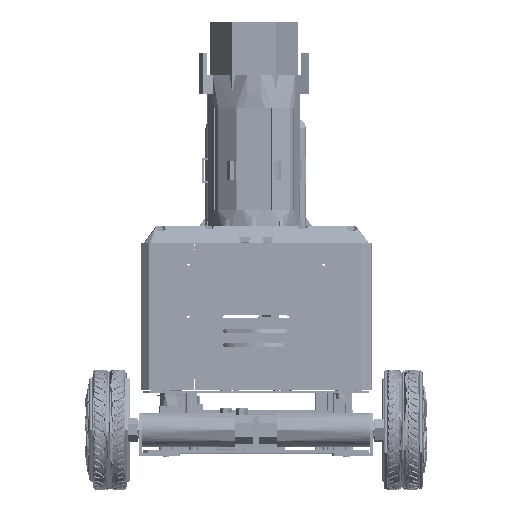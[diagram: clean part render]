
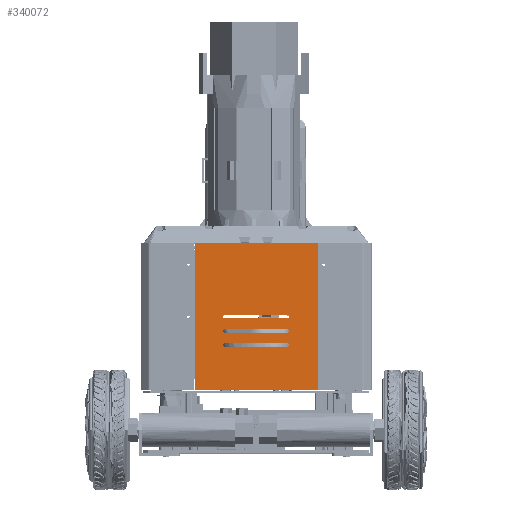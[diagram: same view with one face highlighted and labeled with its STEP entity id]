
A CAD part, top view. The second image highlights one B-rep face of the part: STEP entity #340072.
In plain terms, the highlighted planar face has unit normal (0, 0, 1).
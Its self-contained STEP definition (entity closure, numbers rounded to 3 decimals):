
#7875 = ORIENTED_EDGE ( 'NONE', *, *, #812959, .T. ) ;
#10514 = CARTESIAN_POINT ( 'NONE',  ( 33., 48., 211.667 ) ) ;
#22746 = VERTEX_POINT ( 'NONE', #448270 ) ;
#28956 = LINE ( 'NONE', #39017, #783159 ) ;
#31417 = EDGE_CURVE ( 'NONE', #280778, #508868, #28956, .T. ) ;
#33961 = DIRECTION ( 'NONE',  ( 0., 1., 0. ) ) ;
#39017 = CARTESIAN_POINT ( 'NONE',  ( -64.8, 3., 211.667 ) ) ;
#40153 = CIRCLE ( 'NONE', #56823, 2. ) ;
#49771 = CARTESIAN_POINT ( 'NONE',  ( 33., 50., 211.667 ) ) ;
#54729 = DIRECTION ( 'NONE',  ( 0., 0., -1. ) ) ;
#56823 = AXIS2_PLACEMENT_3D ( 'NONE', #49771, #54729, #670007 ) ;
#73224 = ORIENTED_EDGE ( 'NONE', *, *, #230662, .F. ) ;
#79922 = CARTESIAN_POINT ( 'NONE',  ( -33., 65., 211.667 ) ) ;
#80171 = LINE ( 'NONE', #90273, #580929 ) ;
#86415 = AXIS2_PLACEMENT_3D ( 'NONE', #878768, #268538, #568680 ) ;
#89250 = ORIENTED_EDGE ( 'NONE', *, *, #417574, .F. ) ;
#90273 = CARTESIAN_POINT ( 'NONE',  ( 39.25, 82., 211.667 ) ) ;
#92093 = CARTESIAN_POINT ( 'NONE',  ( 33., 67., 211.667 ) ) ;
#113214 = ORIENTED_EDGE ( 'NONE', *, *, #651404, .T. ) ;
#114981 = VERTEX_POINT ( 'NONE', #826923 ) ;
#133962 = CARTESIAN_POINT ( 'NONE',  ( 72.25, 48., 211.667 ) ) ;
#144870 = VERTEX_POINT ( 'NONE', #10514 ) ;
#170813 = EDGE_CURVE ( 'NONE', #114981, #917892, #945715, .T. ) ;
#173532 = LINE ( 'NONE', #579979, #612377 ) ;
#181786 = EDGE_CURVE ( 'NONE', #262906, #144870, #40153, .T. ) ;
#186423 = VERTEX_POINT ( 'NONE', #555222 ) ;
#187603 = CARTESIAN_POINT ( 'NONE',  ( -33., 48., 211.667 ) ) ;
#192354 = VERTEX_POINT ( 'NONE', #187603 ) ;
#197319 = FACE_BOUND ( 'NONE', #371131, .T. ) ;
#204108 = LINE ( 'NONE', #452884, #555718 ) ;
#212115 = DIRECTION ( 'NONE',  ( 0., 0., -1. ) ) ;
#230662 = EDGE_CURVE ( 'NONE', #262906, #363350, #764183, .T. ) ;
#233312 = CARTESIAN_POINT ( 'NONE',  ( 64.8, 3., 211.667 ) ) ;
#239794 = CARTESIAN_POINT ( 'NONE',  ( 111.5, 3., 211.667 ) ) ;
#244969 = EDGE_LOOP ( 'NONE', ( #73224, #618754, #89250, #767473 ) ) ;
#246981 = CARTESIAN_POINT ( 'NONE',  ( 33., 82., 211.667 ) ) ;
#258456 = FACE_BOUND ( 'NONE', #244969, .T. ) ;
#262906 = VERTEX_POINT ( 'NONE', #542731 ) ;
#265385 = CARTESIAN_POINT ( 'NONE',  ( 72.25, 63., 211.667 ) ) ;
#268538 = DIRECTION ( 'NONE',  ( 0., 0., 1. ) ) ;
#272849 = ORIENTED_EDGE ( 'NONE', *, *, #713678, .F. ) ;
#277394 = CARTESIAN_POINT ( 'NONE',  ( -33., 63., 211.667 ) ) ;
#277433 = ORIENTED_EDGE ( 'NONE', *, *, #960166, .T. ) ;
#280778 = VERTEX_POINT ( 'NONE', #633792 ) ;
#285348 = DIRECTION ( 'NONE',  ( -1., 0., 0. ) ) ;
#290609 = VERTEX_POINT ( 'NONE', #757092 ) ;
#296257 = AXIS2_PLACEMENT_3D ( 'NONE', #441002, #212115, #898615 ) ;
#311402 = CARTESIAN_POINT ( 'NONE',  ( -33., 52., 211.667 ) ) ;
#312353 = ORIENTED_EDGE ( 'NONE', *, *, #457006, .T. ) ;
#328424 = DIRECTION ( 'NONE',  ( 0., 0., -1. ) ) ;
#340072 = ADVANCED_FACE ( 'NONE', ( #258456, #578706, #197319, #726249 ), #736236, .T. ) ;
#363350 = VERTEX_POINT ( 'NONE', #311402 ) ;
#371131 = EDGE_LOOP ( 'NONE', ( #583085, #988441, #272849, #7875 ) ) ;
#374252 = AXIS2_PLACEMENT_3D ( 'NONE', #79922, #700220, #857687 ) ;
#377556 = CIRCLE ( 'NONE', #296257, 2. ) ;
#377841 = DIRECTION ( 'NONE',  ( -1., 0., 0. ) ) ;
#382019 = VECTOR ( 'NONE', #423025, 1000. ) ;
#387500 = DIRECTION ( 'NONE',  ( -1., 0., 0. ) ) ;
#417574 = EDGE_CURVE ( 'NONE', #192354, #144870, #454029, .T. ) ;
#423025 = DIRECTION ( 'NONE',  ( 1., 0., 0. ) ) ;
#441002 = CARTESIAN_POINT ( 'NONE',  ( -33., 80., 211.667 ) ) ;
#448270 = CARTESIAN_POINT ( 'NONE',  ( 33., 78., 211.667 ) ) ;
#452884 = CARTESIAN_POINT ( 'NONE',  ( 39.25, 67., 211.667 ) ) ;
#454029 = LINE ( 'NONE', #133962, #1004051 ) ;
#457006 = EDGE_CURVE ( 'NONE', #114981, #508868, #624405, .T. ) ;
#481841 = CARTESIAN_POINT ( 'NONE',  ( 111.5, 157., 211.667 ) ) ;
#485030 = VERTEX_POINT ( 'NONE', #277394 ) ;
#487594 = VERTEX_POINT ( 'NONE', #741196 ) ;
#500269 = VECTOR ( 'NONE', #934396, 1000. ) ;
#508868 = VERTEX_POINT ( 'NONE', #511753 ) ;
#511753 = CARTESIAN_POINT ( 'NONE',  ( -64.8, 157., 211.667 ) ) ;
#535009 = AXIS2_PLACEMENT_3D ( 'NONE', #594008, #583935, #731456 ) ;
#542045 = EDGE_CURVE ( 'NONE', #546769, #487594, #80171, .T. ) ;
#542731 = CARTESIAN_POINT ( 'NONE',  ( 33., 52., 211.667 ) ) ;
#546769 = VERTEX_POINT ( 'NONE', #246981 ) ;
#555222 = CARTESIAN_POINT ( 'NONE',  ( -33., 78., 211.667 ) ) ;
#555718 = VECTOR ( 'NONE', #285348, 1000. ) ;
#564701 = DIRECTION ( 'NONE',  ( 0., 0., -1. ) ) ;
#568680 = DIRECTION ( 'NONE',  ( 0., -1., 0. ) ) ;
#578706 = FACE_BOUND ( 'NONE', #675047, .T. ) ;
#579979 = CARTESIAN_POINT ( 'NONE',  ( 72.25, 78., 211.667 ) ) ;
#580929 = VECTOR ( 'NONE', #786741, 1000. ) ;
#583085 = ORIENTED_EDGE ( 'NONE', *, *, #542045, .F. ) ;
#583935 = DIRECTION ( 'NONE',  ( 0., 0., -1. ) ) ;
#594008 = CARTESIAN_POINT ( 'NONE',  ( -33., 50., 211.667 ) ) ;
#601259 = VECTOR ( 'NONE', #950717, 1000. ) ;
#601706 = CARTESIAN_POINT ( 'NONE',  ( 39.25, 52., 211.667 ) ) ;
#602388 = EDGE_CURVE ( 'NONE', #732400, #984287, #204108, .T. ) ;
#609109 = AXIS2_PLACEMENT_3D ( 'NONE', #641073, #564701, #747300 ) ;
#612377 = VECTOR ( 'NONE', #874975, 1000. ) ;
#618754 = ORIENTED_EDGE ( 'NONE', *, *, #181786, .T. ) ;
#624405 = LINE ( 'NONE', #481841, #500269 ) ;
#630682 = CARTESIAN_POINT ( 'NONE',  ( 64.8, 157., 211.667 ) ) ;
#633792 = CARTESIAN_POINT ( 'NONE',  ( -64.8, 3., 211.667 ) ) ;
#641073 = CARTESIAN_POINT ( 'NONE',  ( 33., 65., 211.667 ) ) ;
#651404 = EDGE_CURVE ( 'NONE', #485030, #984287, #975164, .T. ) ;
#651887 = LINE ( 'NONE', #265385, #382019 ) ;
#652084 = ORIENTED_EDGE ( 'NONE', *, *, #704611, .F. ) ;
#670007 = DIRECTION ( 'NONE',  ( 0., 1., 0. ) ) ;
#672224 = VECTOR ( 'NONE', #387500, 1000. ) ;
#675047 = EDGE_LOOP ( 'NONE', ( #815986, #277433, #927238, #113214 ) ) ;
#700220 = DIRECTION ( 'NONE',  ( 0., 0., -1. ) ) ;
#704611 = EDGE_CURVE ( 'NONE', #917892, #280778, #778854, .T. ) ;
#713678 = EDGE_CURVE ( 'NONE', #186423, #22746, #173532, .T. ) ;
#726249 = FACE_OUTER_BOUND ( 'NONE', #992570, .T. ) ;
#731456 = DIRECTION ( 'NONE',  ( 0., -1., 0. ) ) ;
#732400 = VERTEX_POINT ( 'NONE', #92093 ) ;
#736236 = PLANE ( 'NONE',  #86415 ) ;
#741196 = CARTESIAN_POINT ( 'NONE',  ( -33., 82., 211.667 ) ) ;
#747300 = DIRECTION ( 'NONE',  ( 0., 1., 0. ) ) ;
#753806 = VECTOR ( 'NONE', #377841, 1000. ) ;
#757092 = CARTESIAN_POINT ( 'NONE',  ( 33., 63., 211.667 ) ) ;
#764120 = DIRECTION ( 'NONE',  ( 1., 0., 0. ) ) ;
#764183 = LINE ( 'NONE', #601706, #753806 ) ;
#766109 = EDGE_CURVE ( 'NONE', #192354, #363350, #989294, .T. ) ;
#767473 = ORIENTED_EDGE ( 'NONE', *, *, #766109, .T. ) ;
#771643 = CIRCLE ( 'NONE', #609109, 2. ) ;
#778854 = LINE ( 'NONE', #239794, #672224 ) ;
#783159 = VECTOR ( 'NONE', #33961, 1000. ) ;
#786741 = DIRECTION ( 'NONE',  ( -1., 0., 0. ) ) ;
#801044 = CARTESIAN_POINT ( 'NONE',  ( 33., 80., 211.667 ) ) ;
#812959 = EDGE_CURVE ( 'NONE', #186423, #487594, #377556, .T. ) ;
#815986 = ORIENTED_EDGE ( 'NONE', *, *, #602388, .F. ) ;
#826923 = CARTESIAN_POINT ( 'NONE',  ( 64.8, 157., 211.667 ) ) ;
#857687 = DIRECTION ( 'NONE',  ( 0., -1., 0. ) ) ;
#872312 = DIRECTION ( 'NONE',  ( 0., 1., 0. ) ) ;
#874975 = DIRECTION ( 'NONE',  ( 1., 0., 0. ) ) ;
#878768 = CARTESIAN_POINT ( 'NONE',  ( 111.5, 3., 211.667 ) ) ;
#884901 = ORIENTED_EDGE ( 'NONE', *, *, #170813, .F. ) ;
#895138 = AXIS2_PLACEMENT_3D ( 'NONE', #801044, #328424, #872312 ) ;
#898615 = DIRECTION ( 'NONE',  ( 0., -1., 0. ) ) ;
#917892 = VERTEX_POINT ( 'NONE', #233312 ) ;
#927238 = ORIENTED_EDGE ( 'NONE', *, *, #957781, .F. ) ;
#927610 = EDGE_CURVE ( 'NONE', #546769, #22746, #927737, .T. ) ;
#927737 = CIRCLE ( 'NONE', #895138, 2. ) ;
#934396 = DIRECTION ( 'NONE',  ( -1., 0., 0. ) ) ;
#941368 = CARTESIAN_POINT ( 'NONE',  ( -33., 67., 211.667 ) ) ;
#945715 = LINE ( 'NONE', #630682, #601259 ) ;
#950717 = DIRECTION ( 'NONE',  ( 0., -1., 0. ) ) ;
#957781 = EDGE_CURVE ( 'NONE', #485030, #290609, #651887, .T. ) ;
#960166 = EDGE_CURVE ( 'NONE', #732400, #290609, #771643, .T. ) ;
#975164 = CIRCLE ( 'NONE', #374252, 2. ) ;
#984287 = VERTEX_POINT ( 'NONE', #941368 ) ;
#988441 = ORIENTED_EDGE ( 'NONE', *, *, #927610, .T. ) ;
#989294 = CIRCLE ( 'NONE', #535009, 2. ) ;
#992570 = EDGE_LOOP ( 'NONE', ( #652084, #884901, #312353, #996928 ) ) ;
#996928 = ORIENTED_EDGE ( 'NONE', *, *, #31417, .F. ) ;
#1004051 = VECTOR ( 'NONE', #764120, 1000. ) ;
